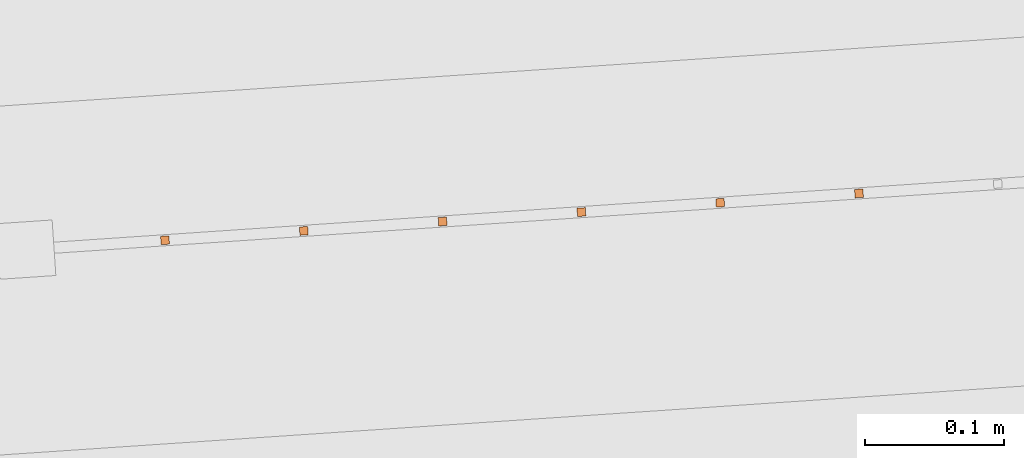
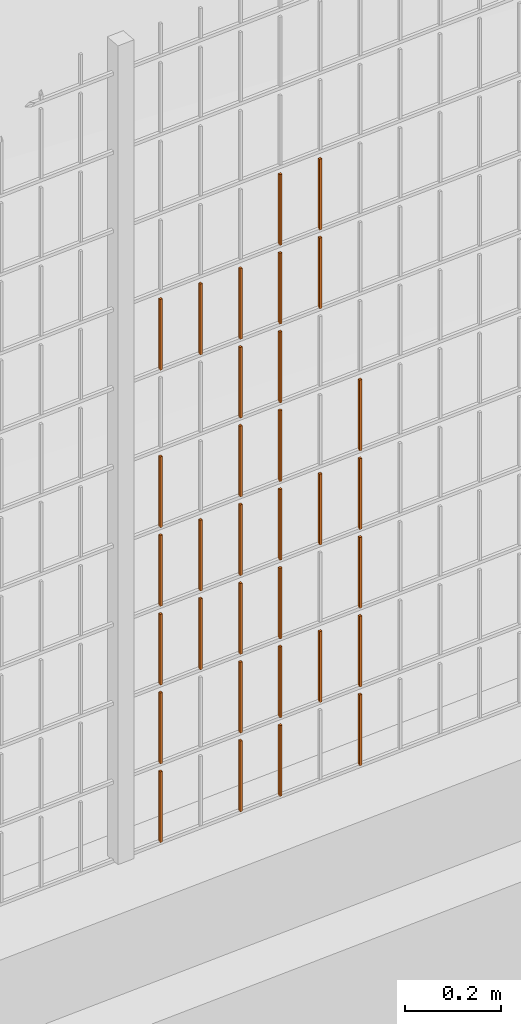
# One storey, part 358 of 1809: 33 proxies, 1 element without a shape of its own.
"""IFC2X3 building model written with IfcOpenShell, lengths in millimetres."""

from ifc_helpers import new_model, entity, si_unit, converted_unit, derived_unit, money_unit, direction, frame, origin_with_axes, place, context, subcontext, project, spatial, faceted_brep, source, transform, mapped, material, type_object, element, aggregate, save


model = new_model("IFC2X3")

# Units and contexts
model_context = context("Model", 3, precision=0.01, world=origin_with_axes(), true_north=direction((0.0, 1.0)))
body_context = subcontext(model_context, "Body", "Model", "MODEL_VIEW")
ifc_project = project(units=[si_unit("LENGTHUNIT", "METRE", prefix="MILLI"), si_unit("AREAUNIT", "SQUARE_METRE"), si_unit("VOLUMEUNIT", "CUBIC_METRE"), converted_unit("PLANEANGLEUNIT", "DEGREE", entity("IfcPlaneAngleMeasure", 0.0174532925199), si_unit("PLANEANGLEUNIT", "RADIAN"), dimensions=[0, 0, 0, 0, 0, 0, 0]), si_unit("SOLIDANGLEUNIT", "STERADIAN"), money_unit("EUR"), converted_unit("TIMEUNIT", "Year", entity("IfcTimeMeasure", 31556926.0), si_unit("TIMEUNIT", "SECOND"), dimensions=[0, 0, 1, 0, 0, 0, 0]), si_unit("MASSUNIT", "GRAM", prefix="KILO"), si_unit("THERMODYNAMICTEMPERATUREUNIT", "DEGREE_CELSIUS"), si_unit("LUMINOUSINTENSITYUNIT", "LUMEN"), si_unit("ENERGYUNIT", "JOULE", prefix="MEGA"), derived_unit("THERMALCONDUCTANCEUNIT", [(si_unit("POWERUNIT", "WATT"), 1), (si_unit("LENGTHUNIT", "METRE"), -1), (si_unit("THERMODYNAMICTEMPERATUREUNIT", "KELVIN"), -1)]), derived_unit("SPECIFICHEATCAPACITYUNIT", [(si_unit("ENERGYUNIT", "JOULE"), 1), (si_unit("MASSUNIT", "GRAM", prefix="KILO"), -1), (si_unit("THERMODYNAMICTEMPERATUREUNIT", "KELVIN"), -1)]), derived_unit("MASSDENSITYUNIT", [(si_unit("MASSUNIT", "GRAM", prefix="KILO"), 1), (si_unit("VOLUMEUNIT", "CUBIC_METRE"), -1)])], contexts=[model_context])

# Site, building, storey
site_placement = place(None, origin_with_axes())
site = spatial("IfcSite", under=ifc_project, at=site_placement, Name="Politse- ja Piirivalveameti ning Päästeameti ühishoone", CompositionType="ELEMENT")
building_placement = place(site_placement, origin_with_axes())
building = spatial("IfcBuilding", under=site, at=building_placement, Name="Politse- ja Piirivalveameti ning Päästeameti ühishoone", CompositionType="ELEMENT")
storey_placement = place(building_placement, origin_with_axes())
storey = spatial("IfcBuildingStorey", under=building, at=storey_placement, Name="Esimene korrus", CompositionType="ELEMENT", Elevation=0.0)

# Proxies
building_element_proxy_type_1 = type_object("IfcBuildingElementProxyType", Name="Railing Type", PredefinedType="NOTDEFINED")
proxy_1_placement = place(storey_placement, frame((89252.001212, -29183.4766571, 203.661247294), z_axis=(0.0, 0.0, 1.0), x_axis=(1.0, 0.0, 0.0)))
proxy_1 = element("IfcBuildingElementProxy", 1, at=proxy_1_placement, inside=storey, type_object=building_element_proxy_type_1, Name="PIIRDEAED")
ifc_material = material(Name="ET-03_Raud")
building_element_proxy_type_2 = type_object("IfcBuildingElementProxyType", Name="IfcBuildingElementProxy", PredefinedType="NOTDEFINED")
shared_shape_1 = source(origin_with_axes(), body_context, "Body", "Brep", [
    faceted_brep([(3.0, 3.0, -0.000752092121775), (-3.0, 3.0, -0.000752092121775), (-3.0, 3.0, 179.99926046), (3.0, 3.0, 179.99926046), (3.0, -3.0, 0.000752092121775), (-3.0, -3.0, 0.000752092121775), (-3.0, -3.0, 180.000764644), (3.0, -3.0, 180.000764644)], [[[0, 1, 2, 3]], [[0, 4, 5, 1]], [[1, 5, 6, 2]], [[3, 2, 6, 7]], [[4, 0, 3, 7]], [[5, 4, 7, 6]]]),
])
proxy_2_placement = place(proxy_1_placement, frame((-24670.4725919, -18964.1720822, 421.035469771), z_axis=(0.0, 0.0, 1.0), x_axis=(1.0, 0.0, 0.0)))
proxy_2 = element("IfcBuildingElementProxy", 2, at=proxy_2_placement, type_object=building_element_proxy_type_2, material=ifc_material, Name="BALUSTER - 001", context=body_context, shape_type="MappedRepresentation", body=[
    mapped(shared_shape_1, transform((0.0, 0.0, 0.0), x_axis=(-0.0673926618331, 0.997726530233, 0.0), y_axis=(-0.997726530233, -0.0673926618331, 0.0), z_axis=(0.0, 0.0, 1.0))),
])
shared_shape_2 = source(origin_with_axes(), body_context, "Body", "Brep", [
    faceted_brep([(3.0, 3.0, -0.000752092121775), (-3.0, 3.0, -0.000752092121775), (-3.0, 3.0, 179.99926046), (3.0, 3.0, 179.99926046), (3.0, -3.0, 0.000752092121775), (-3.0, -3.0, 0.000752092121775), (-3.0, -3.0, 180.000764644), (3.0, -3.0, 180.000764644)], [[[0, 1, 2, 3]], [[0, 4, 5, 1]], [[1, 5, 6, 2]], [[3, 2, 6, 7]], [[4, 0, 3, 7]], [[5, 4, 7, 6]]]),
])
proxy_3_placement = place(proxy_1_placement, frame((-24670.4725919, -18964.1720822, 821.035469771), z_axis=(0.0, 0.0, 1.0), x_axis=(1.0, 0.0, 0.0)))
proxy_3 = element("IfcBuildingElementProxy", 3, at=proxy_3_placement, type_object=building_element_proxy_type_2, material=ifc_material, Name="BALUSTER - 001", context=body_context, shape_type="MappedRepresentation", body=[
    mapped(shared_shape_2, transform((0.0, 0.0, 0.0), x_axis=(-0.0673926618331, 0.997726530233, 0.0), y_axis=(-0.997726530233, -0.0673926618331, 0.0), z_axis=(0.0, 0.0, 1.0))),
])
shared_shape_3 = source(origin_with_axes(), body_context, "Body", "Brep", [
    faceted_brep([(3.0, 3.0, -0.000752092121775), (-3.0, 3.0, -0.000752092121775), (-3.0, 3.0, 179.99926046), (3.0, 3.0, 179.99926046), (3.0, -3.0, 0.000752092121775), (-3.0, -3.0, 0.000752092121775), (-3.0, -3.0, 180.000764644), (3.0, -3.0, 180.000764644)], [[[0, 1, 2, 3]], [[0, 4, 5, 1]], [[1, 5, 6, 2]], [[3, 2, 6, 7]], [[4, 0, 3, 7]], [[5, 4, 7, 6]]]),
])
proxy_4_placement = place(proxy_1_placement, frame((-24670.4725919, -18964.1720822, 21.0354697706), z_axis=(0.0, 0.0, 1.0), x_axis=(1.0, 0.0, 0.0)))
proxy_4 = element("IfcBuildingElementProxy", 4, at=proxy_4_placement, type_object=building_element_proxy_type_2, material=ifc_material, Name="BALUSTER - 001", context=body_context, shape_type="MappedRepresentation", body=[
    mapped(shared_shape_3, transform((0.0, 0.0, 0.0), x_axis=(-0.0673926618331, 0.997726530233, 0.0), y_axis=(-0.997726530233, -0.0673926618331, 0.0), z_axis=(0.0, 0.0, 1.0))),
])
proxy_5_placement = place(proxy_1_placement, frame((-24670.4725919, -18964.1720822, 221.035469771), z_axis=(0.0, 0.0, 1.0), x_axis=(1.0, 0.0, 0.0)))
proxy_5 = element("IfcBuildingElementProxy", 5, at=proxy_5_placement, type_object=building_element_proxy_type_2, material=ifc_material, Name="BALUSTER - 001", context=body_context, shape_type="MappedRepresentation", body=[
    mapped(shared_shape_3, transform((0.0, 0.0, 0.0), x_axis=(-0.0673926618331, 0.997726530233, 0.0), y_axis=(-0.997726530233, -0.0673926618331, 0.0), z_axis=(0.0, 0.0, 1.0))),
])
shared_shape_4 = source(origin_with_axes(), body_context, "Body", "Brep", [
    faceted_brep([(3.0, 3.0, -0.000752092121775), (-3.0, 3.0, -0.000752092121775), (-3.0, 3.0, 179.99926046), (3.0, 3.0, 179.99926046), (3.0, -3.0, 0.000752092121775), (-3.0, -3.0, 0.000752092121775), (-3.0, -3.0, 180.000764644), (3.0, -3.0, 180.000764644)], [[[0, 1, 2, 3]], [[0, 4, 5, 1]], [[1, 5, 6, 2]], [[3, 2, 6, 7]], [[4, 0, 3, 7]], [[5, 4, 7, 6]]]),
])
proxy_6_placement = place(proxy_1_placement, frame((-24670.4725919, -18964.1720822, 621.035469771), z_axis=(0.0, 0.0, 1.0), x_axis=(1.0, 0.0, 0.0)))
proxy_6 = element("IfcBuildingElementProxy", 6, at=proxy_6_placement, type_object=building_element_proxy_type_2, material=ifc_material, Name="BALUSTER - 001", context=body_context, shape_type="MappedRepresentation", body=[
    mapped(shared_shape_4, transform((0.0, 0.0, 0.0), x_axis=(-0.0673926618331, 0.997726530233, 0.0), y_axis=(-0.997726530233, -0.0673926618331, 0.0), z_axis=(0.0, 0.0, 1.0))),
])
shared_shape_5 = source(origin_with_axes(), body_context, "Body", "Brep", [
    faceted_brep([(3.0, 3.0, -0.000752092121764), (-3.0, 3.0, -0.000752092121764), (-3.0, 3.0, 179.99926046), (3.0, 3.0, 179.99926046), (3.0, -3.0, 0.000752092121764), (-3.0, -3.0, 0.000752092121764), (-3.0, -3.0, 180.000764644), (3.0, -3.0, 180.000764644)], [[[0, 1, 2, 3]], [[0, 4, 5, 1]], [[1, 5, 6, 2]], [[3, 2, 6, 7]], [[4, 0, 3, 7]], [[5, 4, 7, 6]]]),
])
proxy_7_placement = place(proxy_1_placement, frame((-24171.6093268, -18930.4757513, 621.160818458), z_axis=(0.0, 0.0, 1.0), x_axis=(1.0, 0.0, 0.0)))
proxy_7 = element("IfcBuildingElementProxy", 7, at=proxy_7_placement, type_object=building_element_proxy_type_2, material=ifc_material, Name="BALUSTER - 001", context=body_context, shape_type="MappedRepresentation", body=[
    mapped(shared_shape_5, transform((0.0, 0.0, 0.0), x_axis=(-0.0673926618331, 0.997726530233, 0.0), y_axis=(-0.997726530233, -0.0673926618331, 0.0), z_axis=(0.0, 0.0, 1.0))),
])
shared_shape_6 = source(origin_with_axes(), body_context, "Body", "Brep", [
    faceted_brep([(3.0, 3.0, -0.000752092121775), (-3.0, 3.0, -0.000752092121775), (-3.0, 3.0, 179.99926046), (3.0, 3.0, 179.99926046), (3.0, -3.0, 0.000752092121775), (-3.0, -3.0, 0.000752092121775), (-3.0, -3.0, 180.000764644), (3.0, -3.0, 180.000764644)], [[[0, 1, 2, 3]], [[0, 4, 5, 1]], [[1, 5, 6, 2]], [[3, 2, 6, 7]], [[4, 0, 3, 7]], [[5, 4, 7, 6]]]),
])
proxy_8_placement = place(proxy_1_placement, frame((-24470.9272859, -18950.6935498, 21.0856092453), z_axis=(0.0, 0.0, 1.0), x_axis=(1.0, 0.0, 0.0)))
proxy_8 = element("IfcBuildingElementProxy", 8, at=proxy_8_placement, type_object=building_element_proxy_type_2, material=ifc_material, Name="BALUSTER - 001", context=body_context, shape_type="MappedRepresentation", body=[
    mapped(shared_shape_6, transform((0.0, 0.0, 0.0), x_axis=(-0.0673926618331, 0.997726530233, 0.0), y_axis=(-0.997726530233, -0.0673926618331, 0.0), z_axis=(0.0, 0.0, 1.0))),
])
shared_shape_7 = source(origin_with_axes(), body_context, "Body", "Brep", [
    faceted_brep([(3.0, 3.0, -0.000752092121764), (-3.0, 3.0, -0.000752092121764), (-3.0, 3.0, 179.99926046), (3.0, 3.0, 179.99926046), (3.0, -3.0, 0.000752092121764), (-3.0, -3.0, 0.000752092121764), (-3.0, -3.0, 180.000764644), (3.0, -3.0, 180.000764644)], [[[0, 1, 2, 3]], [[0, 4, 5, 1]], [[1, 5, 6, 2]], [[3, 2, 6, 7]], [[4, 0, 3, 7]], [[5, 4, 7, 6]]]),
])
proxy_9_placement = place(proxy_1_placement, frame((-24171.6093268, -18930.4757513, 21.1608184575), z_axis=(0.0, 0.0, 1.0), x_axis=(1.0, 0.0, 0.0)))
proxy_9 = element("IfcBuildingElementProxy", 9, at=proxy_9_placement, type_object=building_element_proxy_type_2, material=ifc_material, Name="BALUSTER - 001", context=body_context, shape_type="MappedRepresentation", body=[
    mapped(shared_shape_7, transform((0.0, 0.0, 0.0), x_axis=(-0.0673926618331, 0.997726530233, 0.0), y_axis=(-0.997726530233, -0.0673926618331, 0.0), z_axis=(0.0, 0.0, 1.0))),
])
shared_shape_8 = source(origin_with_axes(), body_context, "Body", "Brep", [
    faceted_brep([(3.0, 3.0, -0.000752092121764), (-3.0, 3.0, -0.000752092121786), (-3.0, 3.0, 179.99926046), (3.0, 3.0, 179.99926046), (3.0, -3.0, 0.000752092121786), (-3.0, -3.0, 0.000752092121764), (-3.0, -3.0, 180.000764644), (3.0, -3.0, 180.000764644)], [[[0, 1, 2, 3]], [[0, 4, 5, 1]], [[1, 5, 6, 2]], [[3, 2, 6, 7]], [[4, 0, 3, 7]], [[5, 4, 7, 6]]]),
])
proxy_10_placement = place(proxy_1_placement, frame((-24371.1546329, -18943.9542836, 21.1106789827), z_axis=(0.0, 0.0, 1.0), x_axis=(1.0, 0.0, 0.0)))
proxy_10 = element("IfcBuildingElementProxy", 10, at=proxy_10_placement, type_object=building_element_proxy_type_2, material=ifc_material, Name="BALUSTER - 001", context=body_context, shape_type="MappedRepresentation", body=[
    mapped(shared_shape_8, transform((0.0, 0.0, 0.0), x_axis=(-0.0673926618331, 0.997726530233, 0.0), y_axis=(-0.997726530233, -0.0673926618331, 0.0), z_axis=(0.0, 0.0, 1.0))),
])
shared_shape_9 = source(origin_with_axes(), body_context, "Body", "Brep", [
    faceted_brep([(3.0, 3.0, -0.000752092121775), (-3.0, 3.0, -0.000752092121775), (-3.0, 3.0, 179.99926046), (3.0, 3.0, 179.99926046), (3.0, -3.0, 0.000752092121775), (-3.0, -3.0, 0.000752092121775), (-3.0, -3.0, 180.000764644), (3.0, -3.0, 180.000764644)], [[[0, 1, 2, 3]], [[0, 4, 5, 1]], [[1, 5, 6, 2]], [[3, 2, 6, 7]], [[4, 0, 3, 7]], [[5, 4, 7, 6]]]),
])
proxy_11_placement = place(proxy_1_placement, frame((-24470.9272859, -18950.6935498, 421.085609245), z_axis=(0.0, 0.0, 1.0), x_axis=(1.0, 0.0, 0.0)))
proxy_11 = element("IfcBuildingElementProxy", 11, at=proxy_11_placement, type_object=building_element_proxy_type_2, material=ifc_material, Name="BALUSTER - 001", context=body_context, shape_type="MappedRepresentation", body=[
    mapped(shared_shape_9, transform((0.0, 0.0, 0.0), x_axis=(-0.0673926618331, 0.997726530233, 0.0), y_axis=(-0.997726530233, -0.0673926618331, 0.0), z_axis=(0.0, 0.0, 1.0))),
])
proxy_12_placement = place(proxy_1_placement, frame((-24470.9272859, -18950.6935498, 621.085609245), z_axis=(0.0, 0.0, 1.0), x_axis=(1.0, 0.0, 0.0)))
proxy_12 = element("IfcBuildingElementProxy", 12, at=proxy_12_placement, type_object=building_element_proxy_type_2, material=ifc_material, Name="BALUSTER - 001", context=body_context, shape_type="MappedRepresentation", body=[
    mapped(shared_shape_9, transform((0.0, 0.0, 0.0), x_axis=(-0.0673926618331, 0.997726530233, 0.0), y_axis=(-0.997726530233, -0.0673926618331, 0.0), z_axis=(0.0, 0.0, 1.0))),
])
shared_shape_10 = source(origin_with_axes(), body_context, "Body", "Brep", [
    faceted_brep([(3.0, 3.0, -0.000752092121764), (-3.0, 3.0, -0.000752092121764), (-3.0, 3.0, 179.99926046), (3.0, 3.0, 179.99926046), (3.0, -3.0, 0.000752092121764), (-3.0, -3.0, 0.000752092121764), (-3.0, -3.0, 180.000764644), (3.0, -3.0, 180.000764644)], [[[0, 1, 2, 3]], [[0, 4, 5, 1]], [[1, 5, 6, 2]], [[3, 2, 6, 7]], [[4, 0, 3, 7]], [[5, 4, 7, 6]]]),
])
proxy_13_placement = place(proxy_1_placement, frame((-24171.6093268, -18930.4757513, 221.160818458), z_axis=(0.0, 0.0, 1.0), x_axis=(1.0, 0.0, 0.0)))
proxy_13 = element("IfcBuildingElementProxy", 13, at=proxy_13_placement, type_object=building_element_proxy_type_2, material=ifc_material, Name="BALUSTER - 001", context=body_context, shape_type="MappedRepresentation", body=[
    mapped(shared_shape_10, transform((0.0, 0.0, 0.0), x_axis=(-0.0673926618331, 0.997726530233, 0.0), y_axis=(-0.997726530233, -0.0673926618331, 0.0), z_axis=(0.0, 0.0, 1.0))),
])
proxy_14_placement = place(proxy_1_placement, frame((-24171.6093268, -18930.4757513, 421.160818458), z_axis=(0.0, 0.0, 1.0), x_axis=(1.0, 0.0, 0.0)))
proxy_14 = element("IfcBuildingElementProxy", 14, at=proxy_14_placement, type_object=building_element_proxy_type_2, material=ifc_material, Name="BALUSTER - 001", context=body_context, shape_type="MappedRepresentation", body=[
    mapped(shared_shape_10, transform((0.0, 0.0, 0.0), x_axis=(-0.0673926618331, 0.997726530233, 0.0), y_axis=(-0.997726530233, -0.0673926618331, 0.0), z_axis=(0.0, 0.0, 1.0))),
])
shared_shape_11 = source(origin_with_axes(), body_context, "Body", "Brep", [
    faceted_brep([(3.0, 3.0, -0.000752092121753), (-3.0, 3.0, -0.000752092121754), (-3.0, 3.0, 179.99926046), (3.0, 3.0, 179.99926046), (3.0, -3.0, 0.000752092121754), (-3.0, -3.0, 0.000752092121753), (-3.0, -3.0, 180.000764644), (3.0, -3.0, 180.000764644)], [[[0, 1, 2, 3]], [[0, 4, 5, 1]], [[1, 5, 6, 2]], [[3, 2, 6, 7]], [[4, 0, 3, 7]], [[5, 4, 7, 6]]]),
])
proxy_15_placement = place(proxy_1_placement, frame((-24271.3819798, -18937.2150175, 221.13574872), z_axis=(0.0, 0.0, 1.0), x_axis=(1.0, 0.0, 0.0)))
proxy_15 = element("IfcBuildingElementProxy", 15, at=proxy_15_placement, type_object=building_element_proxy_type_2, material=ifc_material, Name="BALUSTER - 001", context=body_context, shape_type="MappedRepresentation", body=[
    mapped(shared_shape_11, transform((0.0, 0.0, 0.0), x_axis=(-0.0673926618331, 0.997726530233, 0.0), y_axis=(-0.997726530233, -0.0673926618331, 0.0), z_axis=(0.0, 0.0, 1.0))),
])
proxy_16_placement = place(proxy_1_placement, frame((-24271.3819798, -18937.2150175, 621.13574872), z_axis=(0.0, 0.0, 1.0), x_axis=(1.0, 0.0, 0.0)))
proxy_16 = element("IfcBuildingElementProxy", 16, at=proxy_16_placement, type_object=building_element_proxy_type_2, material=ifc_material, Name="BALUSTER - 001", context=body_context, shape_type="MappedRepresentation", body=[
    mapped(shared_shape_11, transform((0.0, 0.0, 0.0), x_axis=(-0.0673926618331, 0.997726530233, 0.0), y_axis=(-0.997726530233, -0.0673926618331, 0.0), z_axis=(0.0, 0.0, 1.0))),
])
shared_shape_12 = source(origin_with_axes(), body_context, "Body", "Brep", [
    faceted_brep([(3.0, 3.0, -0.000752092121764), (-3.0, 3.0, -0.000752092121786), (-3.0, 3.0, 179.99926046), (3.0, 3.0, 179.99926046), (3.0, -3.0, 0.000752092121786), (-3.0, -3.0, 0.000752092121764), (-3.0, -3.0, 180.000764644), (3.0, -3.0, 180.000764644)], [[[0, 1, 2, 3]], [[0, 4, 5, 1]], [[1, 5, 6, 2]], [[3, 2, 6, 7]], [[4, 0, 3, 7]], [[5, 4, 7, 6]]]),
])
proxy_17_placement = place(proxy_1_placement, frame((-24371.1546329, -18943.9542836, 221.110678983), z_axis=(0.0, 0.0, 1.0), x_axis=(1.0, 0.0, 0.0)))
proxy_17 = element("IfcBuildingElementProxy", 17, at=proxy_17_placement, type_object=building_element_proxy_type_2, material=ifc_material, Name="BALUSTER - 001", context=body_context, shape_type="MappedRepresentation", body=[
    mapped(shared_shape_12, transform((0.0, 0.0, 0.0), x_axis=(-0.0673926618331, 0.997726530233, 0.0), y_axis=(-0.997726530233, -0.0673926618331, 0.0), z_axis=(0.0, 0.0, 1.0))),
])
proxy_18_placement = place(proxy_1_placement, frame((-24371.1546329, -18943.9542836, 421.110678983), z_axis=(0.0, 0.0, 1.0), x_axis=(1.0, 0.0, 0.0)))
proxy_18 = element("IfcBuildingElementProxy", 18, at=proxy_18_placement, type_object=building_element_proxy_type_2, material=ifc_material, Name="BALUSTER - 001", context=body_context, shape_type="MappedRepresentation", body=[
    mapped(shared_shape_12, transform((0.0, 0.0, 0.0), x_axis=(-0.0673926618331, 0.997726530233, 0.0), y_axis=(-0.997726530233, -0.0673926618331, 0.0), z_axis=(0.0, 0.0, 1.0))),
])
shared_shape_13 = source(origin_with_axes(), body_context, "Body", "Brep", [
    faceted_brep([(3.0, 3.0, -0.000752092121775), (-3.0, 3.0, -0.000752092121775), (-3.0, 3.0, 179.99926046), (3.0, 3.0, 179.99926046), (3.0, -3.0, 0.000752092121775), (-3.0, -3.0, 0.000752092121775), (-3.0, -3.0, 180.000764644), (3.0, -3.0, 180.000764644)], [[[0, 1, 2, 3]], [[0, 4, 5, 1]], [[1, 5, 6, 2]], [[3, 2, 6, 7]], [[4, 0, 3, 7]], [[5, 4, 7, 6]]]),
])
proxy_19_placement = place(proxy_1_placement, frame((-24470.9272859, -18950.6935498, 221.085609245), z_axis=(0.0, 0.0, 1.0), x_axis=(1.0, 0.0, 0.0)))
proxy_19 = element("IfcBuildingElementProxy", 19, at=proxy_19_placement, type_object=building_element_proxy_type_2, material=ifc_material, Name="BALUSTER - 001", context=body_context, shape_type="MappedRepresentation", body=[
    mapped(shared_shape_13, transform((0.0, 0.0, 0.0), x_axis=(-0.0673926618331, 0.997726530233, 0.0), y_axis=(-0.997726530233, -0.0673926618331, 0.0), z_axis=(0.0, 0.0, 1.0))),
])
shared_shape_14 = source(origin_with_axes(), body_context, "Body", "Brep", [
    faceted_brep([(3.0, 3.0, -0.000752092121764), (-3.0, 3.0, -0.000752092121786), (-3.0, 3.0, 179.99926046), (3.0, 3.0, 179.99926046), (3.0, -3.0, 0.000752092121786), (-3.0, -3.0, 0.000752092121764), (-3.0, -3.0, 180.000764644), (3.0, -3.0, 180.000764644)], [[[0, 1, 2, 3]], [[0, 4, 5, 1]], [[1, 5, 6, 2]], [[3, 2, 6, 7]], [[4, 0, 3, 7]], [[5, 4, 7, 6]]]),
])
proxy_20_placement = place(proxy_1_placement, frame((-24570.6999389, -18957.432816, 421.060539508), z_axis=(0.0, 0.0, 1.0), x_axis=(1.0, 0.0, 0.0)))
proxy_20 = element("IfcBuildingElementProxy", 20, at=proxy_20_placement, type_object=building_element_proxy_type_2, material=ifc_material, Name="BALUSTER - 001", context=body_context, shape_type="MappedRepresentation", body=[
    mapped(shared_shape_14, transform((0.0, 0.0, 0.0), x_axis=(-0.0673926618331, 0.997726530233, 0.0), y_axis=(-0.997726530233, -0.0673926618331, 0.0), z_axis=(0.0, 0.0, 1.0))),
])
shared_shape_15 = source(origin_with_axes(), body_context, "Body", "Brep", [
    faceted_brep([(3.0, 3.0, -0.000752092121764), (-3.0, 3.0, -0.000752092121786), (-3.0, 3.0, 179.99926046), (3.0, 3.0, 179.99926046), (3.0, -3.0, 0.000752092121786), (-3.0, -3.0, 0.000752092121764), (-3.0, -3.0, 180.000764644), (3.0, -3.0, 180.000764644)], [[[0, 1, 2, 3]], [[0, 4, 5, 1]], [[1, 5, 6, 2]], [[3, 2, 6, 7]], [[4, 0, 3, 7]], [[5, 4, 7, 6]]]),
])
proxy_21_placement = place(proxy_1_placement, frame((-24470.9272859, -18950.6935498, 1221.08560925), z_axis=(0.0, 0.0, 1.0), x_axis=(1.0, 0.0, 0.0)))
proxy_21 = element("IfcBuildingElementProxy", 21, at=proxy_21_placement, type_object=building_element_proxy_type_2, material=ifc_material, Name="BALUSTER - 001", context=body_context, shape_type="MappedRepresentation", body=[
    mapped(shared_shape_15, transform((0.0, 0.0, 0.0), x_axis=(-0.0673926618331, 0.997726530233, 0.0), y_axis=(-0.997726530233, -0.0673926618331, 0.0), z_axis=(0.0, 0.0, 1.0))),
])
proxy_22_placement = place(proxy_1_placement, frame((-24570.6999389, -18957.432816, 1221.06053951), z_axis=(0.0, 0.0, 1.0), x_axis=(1.0, 0.0, 0.0)))
proxy_22 = element("IfcBuildingElementProxy", 22, at=proxy_22_placement, type_object=building_element_proxy_type_2, material=ifc_material, Name="BALUSTER - 001", context=body_context, shape_type="MappedRepresentation", body=[
    mapped(shared_shape_15, transform((0.0, 0.0, 0.0), x_axis=(-0.0673926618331, 0.997726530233, 0.0), y_axis=(-0.997726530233, -0.0673926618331, 0.0), z_axis=(0.0, 0.0, 1.0))),
])
shared_shape_16 = source(origin_with_axes(), body_context, "Body", "Brep", [
    faceted_brep([(3.0, 3.0, -0.000752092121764), (-3.0, 3.0, -0.000752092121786), (-3.0, 3.0, 179.99926046), (3.0, 3.0, 179.99926046), (3.0, -3.0, 0.000752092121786), (-3.0, -3.0, 0.000752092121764), (-3.0, -3.0, 180.000764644), (3.0, -3.0, 180.000764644)], [[[0, 1, 2, 3]], [[0, 4, 5, 1]], [[1, 5, 6, 2]], [[3, 2, 6, 7]], [[4, 0, 3, 7]], [[5, 4, 7, 6]]]),
])
proxy_23_placement = place(proxy_1_placement, frame((-24371.1546329, -18943.9542836, 621.110678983), z_axis=(0.0, 0.0, 1.0), x_axis=(1.0, 0.0, 0.0)))
proxy_23 = element("IfcBuildingElementProxy", 23, at=proxy_23_placement, type_object=building_element_proxy_type_2, material=ifc_material, Name="BALUSTER - 001", context=body_context, shape_type="MappedRepresentation", body=[
    mapped(shared_shape_16, transform((0.0, 0.0, 0.0), x_axis=(-0.0673926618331, 0.997726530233, 0.0), y_axis=(-0.997726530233, -0.0673926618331, 0.0), z_axis=(0.0, 0.0, 1.0))),
])
shared_shape_17 = source(origin_with_axes(), body_context, "Body", "Brep", [
    faceted_brep([(3.0, 3.0, -0.000752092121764), (-3.0, 3.0, -0.000752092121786), (-3.0, 3.0, 179.99926046), (3.0, 3.0, 179.99926046), (3.0, -3.0, 0.000752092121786), (-3.0, -3.0, 0.000752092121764), (-3.0, -3.0, 180.000764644), (3.0, -3.0, 180.000764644)], [[[0, 1, 2, 3]], [[0, 4, 5, 1]], [[1, 5, 6, 2]], [[3, 2, 6, 7]], [[4, 0, 3, 7]], [[5, 4, 7, 6]]]),
])
proxy_24_placement = place(proxy_1_placement, frame((-24570.6999389, -18957.432816, 621.060539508), z_axis=(0.0, 0.0, 1.0), x_axis=(1.0, 0.0, 0.0)))
proxy_24 = element("IfcBuildingElementProxy", 24, at=proxy_24_placement, type_object=building_element_proxy_type_2, material=ifc_material, Name="BALUSTER - 001", context=body_context, shape_type="MappedRepresentation", body=[
    mapped(shared_shape_17, transform((0.0, 0.0, 0.0), x_axis=(-0.0673926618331, 0.997726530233, 0.0), y_axis=(-0.997726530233, -0.0673926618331, 0.0), z_axis=(0.0, 0.0, 1.0))),
])
shared_shape_18 = source(origin_with_axes(), body_context, "Body", "Brep", [
    faceted_brep([(3.0, 3.0, -0.000752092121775), (-3.0, 3.0, -0.000752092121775), (-3.0, 3.0, 179.99926046), (3.0, 3.0, 179.99926046), (3.0, -3.0, 0.000752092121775), (-3.0, -3.0, 0.000752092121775), (-3.0, -3.0, 180.000764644), (3.0, -3.0, 180.000764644)], [[[0, 1, 2, 3]], [[0, 4, 5, 1]], [[1, 5, 6, 2]], [[3, 2, 6, 7]], [[4, 0, 3, 7]], [[5, 4, 7, 6]]]),
])
proxy_25_placement = place(proxy_1_placement, frame((-24470.9272859, -18950.6935498, 821.085609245), z_axis=(0.0, 0.0, 1.0), x_axis=(1.0, 0.0, 0.0)))
proxy_25 = element("IfcBuildingElementProxy", 25, at=proxy_25_placement, type_object=building_element_proxy_type_2, material=ifc_material, Name="BALUSTER - 001", context=body_context, shape_type="MappedRepresentation", body=[
    mapped(shared_shape_18, transform((0.0, 0.0, 0.0), x_axis=(-0.0673926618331, 0.997726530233, 0.0), y_axis=(-0.997726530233, -0.0673926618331, 0.0), z_axis=(0.0, 0.0, 1.0))),
])
shared_shape_19 = source(origin_with_axes(), body_context, "Body", "Brep", [
    faceted_brep([(3.0, 3.0, -0.000752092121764), (-3.0, 3.0, -0.000752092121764), (-3.0, 3.0, 179.99926046), (3.0, 3.0, 179.99926046), (3.0, -3.0, 0.000752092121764), (-3.0, -3.0, 0.000752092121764), (-3.0, -3.0, 180.000764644), (3.0, -3.0, 180.000764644)], [[[0, 1, 2, 3]], [[0, 4, 5, 1]], [[1, 5, 6, 2]], [[3, 2, 6, 7]], [[4, 0, 3, 7]], [[5, 4, 7, 6]]]),
])
proxy_26_placement = place(proxy_1_placement, frame((-24171.6093268, -18930.4757513, 821.160818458), z_axis=(0.0, 0.0, 1.0), x_axis=(1.0, 0.0, 0.0)))
proxy_26 = element("IfcBuildingElementProxy", 26, at=proxy_26_placement, type_object=building_element_proxy_type_2, material=ifc_material, Name="BALUSTER - 001", context=body_context, shape_type="MappedRepresentation", body=[
    mapped(shared_shape_19, transform((0.0, 0.0, 0.0), x_axis=(-0.0673926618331, 0.997726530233, 0.0), y_axis=(-0.997726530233, -0.0673926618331, 0.0), z_axis=(0.0, 0.0, 1.0))),
])
shared_shape_20 = source(origin_with_axes(), body_context, "Body", "Brep", [
    faceted_brep([(3.0, 3.0, -0.000752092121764), (-3.0, 3.0, -0.000752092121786), (-3.0, 3.0, 179.99926046), (3.0, 3.0, 179.99926046), (3.0, -3.0, 0.000752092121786), (-3.0, -3.0, 0.000752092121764), (-3.0, -3.0, 180.000764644), (3.0, -3.0, 180.000764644)], [[[0, 1, 2, 3]], [[0, 4, 5, 1]], [[1, 5, 6, 2]], [[3, 2, 6, 7]], [[4, 0, 3, 7]], [[5, 4, 7, 6]]]),
])
proxy_27_placement = place(proxy_1_placement, frame((-24371.1546329, -18943.9542836, 821.110678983), z_axis=(0.0, 0.0, 1.0), x_axis=(1.0, 0.0, 0.0)))
proxy_27 = element("IfcBuildingElementProxy", 27, at=proxy_27_placement, type_object=building_element_proxy_type_2, material=ifc_material, Name="BALUSTER - 001", context=body_context, shape_type="MappedRepresentation", body=[
    mapped(shared_shape_20, transform((0.0, 0.0, 0.0), x_axis=(-0.0673926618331, 0.997726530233, 0.0), y_axis=(-0.997726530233, -0.0673926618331, 0.0), z_axis=(0.0, 0.0, 1.0))),
])
shared_shape_21 = source(origin_with_axes(), body_context, "Body", "Brep", [
    faceted_brep([(3.0, 3.0, -0.000752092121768), (-3.0, 3.0, -0.000752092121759), (-3.00000000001, 2.99999999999, 179.99926046), (2.99999999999, 2.99999999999, 179.99926046), (3.0, -3.0, 0.000752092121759), (-3.0, -3.0, 0.000752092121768), (-3.00000000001, -3.00000000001, 180.000764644), (2.99999999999, -3.00000000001, 180.000764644)], [[[0, 1, 2, 3]], [[0, 4, 5, 1]], [[1, 5, 6, 2]], [[3, 2, 6, 7]], [[4, 0, 3, 7]], [[5, 4, 7, 6]]]),
])
proxy_28_placement = place(proxy_1_placement, frame((-24371.1546329, -18943.9542836, 1021.11067898), z_axis=(0.0, 0.0, 1.0), x_axis=(1.0, 0.0, 0.0)))
proxy_28 = element("IfcBuildingElementProxy", 28, at=proxy_28_placement, type_object=building_element_proxy_type_2, material=ifc_material, Name="BALUSTER - 001", context=body_context, shape_type="MappedRepresentation", body=[
    mapped(shared_shape_21, transform((0.0, 0.0, 0.0), x_axis=(-0.0673926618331, 0.997726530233, 0.0), y_axis=(-0.997726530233, -0.0673926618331, 0.0), z_axis=(0.0, 0.0, 1.0))),
])
shared_shape_22 = source(origin_with_axes(), body_context, "Body", "Brep", [
    faceted_brep([(3.0, 3.0, -0.000752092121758), (-3.0, 3.0, -0.00075209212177), (-3.00000000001, 3.0, 179.99926046), (2.99999999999, 3.0, 179.99926046), (3.0, -3.0, 0.00075209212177), (-3.0, -3.0, 0.000752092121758), (-3.00000000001, -3.0, 180.000764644), (2.99999999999, -3.0, 180.000764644)], [[[0, 1, 2, 3]], [[0, 4, 5, 1]], [[1, 5, 6, 2]], [[3, 2, 6, 7]], [[4, 0, 3, 7]], [[5, 4, 7, 6]]]),
])
proxy_29_placement = place(proxy_1_placement, frame((-24470.9272859, -18950.6935498, 1021.08560925), z_axis=(0.0, 0.0, 1.0), x_axis=(1.0, 0.0, 0.0)))
proxy_29 = element("IfcBuildingElementProxy", 29, at=proxy_29_placement, type_object=building_element_proxy_type_2, material=ifc_material, Name="BALUSTER - 001", context=body_context, shape_type="MappedRepresentation", body=[
    mapped(shared_shape_22, transform((0.0, 0.0, 0.0), x_axis=(-0.0673926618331, 0.997726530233, 0.0), y_axis=(-0.997726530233, -0.0673926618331, 0.0), z_axis=(0.0, 0.0, 1.0))),
])
shared_shape_23 = source(origin_with_axes(), body_context, "Body", "Brep", [
    faceted_brep([(3.0, 3.0, -0.000752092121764), (-3.0, 3.0, -0.000752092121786), (-3.0, 3.0, 179.99926046), (3.0, 3.0, 179.99926046), (3.0, -3.0, 0.000752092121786), (-3.0, -3.0, 0.000752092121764), (-3.0, -3.0, 180.000764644), (3.0, -3.0, 180.000764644)], [[[0, 1, 2, 3]], [[0, 4, 5, 1]], [[1, 5, 6, 2]], [[3, 2, 6, 7]], [[4, 0, 3, 7]], [[5, 4, 7, 6]]]),
])
proxy_30_placement = place(proxy_1_placement, frame((-24371.1546329, -18943.9542836, 1221.11067898), z_axis=(0.0, 0.0, 1.0), x_axis=(1.0, 0.0, 0.0)))
proxy_30 = element("IfcBuildingElementProxy", 30, at=proxy_30_placement, type_object=building_element_proxy_type_2, material=ifc_material, Name="BALUSTER - 001", context=body_context, shape_type="MappedRepresentation", body=[
    mapped(shared_shape_23, transform((0.0, 0.0, 0.0), x_axis=(-0.0673926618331, 0.997726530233, 0.0), y_axis=(-0.997726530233, -0.0673926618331, 0.0), z_axis=(0.0, 0.0, 1.0))),
])
shared_shape_24 = source(origin_with_axes(), body_context, "Body", "Brep", [
    faceted_brep([(3.0, 3.0, -0.000752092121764), (-3.0, 3.0, -0.000752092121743), (-3.0, 3.0, 179.99926046), (3.0, 3.0, 179.99926046), (3.0, -3.0, 0.000752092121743), (-3.0, -3.0, 0.000752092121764), (-3.0, -3.0, 180.000764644), (3.0, -3.0, 180.000764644)], [[[0, 1, 2, 3]], [[0, 4, 5, 1]], [[1, 5, 6, 2]], [[3, 2, 6, 7]], [[4, 0, 3, 7]], [[5, 4, 7, 6]]]),
])
proxy_31_placement = place(proxy_1_placement, frame((-24271.3819798, -18937.2150175, 1221.13574872), z_axis=(0.0, 0.0, 1.0), x_axis=(1.0, 0.0, 0.0)))
proxy_31 = element("IfcBuildingElementProxy", 31, at=proxy_31_placement, type_object=building_element_proxy_type_2, material=ifc_material, Name="BALUSTER - 001", context=body_context, shape_type="MappedRepresentation", body=[
    mapped(shared_shape_24, transform((0.0, 0.0, 0.0), x_axis=(-0.0673926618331, 0.997726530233, 0.0), y_axis=(-0.997726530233, -0.0673926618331, 0.0), z_axis=(0.0, 0.0, 1.0))),
])
shared_shape_25 = source(origin_with_axes(), body_context, "Body", "Brep", [
    faceted_brep([(3.0, 3.0, -0.000752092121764), (-3.0, 3.0, -0.000752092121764), (-3.0, 3.0, 179.99926046), (3.0, 3.0, 179.99926046), (3.0, -3.0, 0.000752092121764), (-3.0, -3.0, 0.000752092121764), (-3.0, -3.0, 180.000764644), (3.0, -3.0, 180.000764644)], [[[0, 1, 2, 3]], [[0, 4, 5, 1]], [[1, 5, 6, 2]], [[3, 2, 6, 7]], [[4, 0, 3, 7]], [[5, 4, 7, 6]]]),
])
proxy_32_placement = place(proxy_1_placement, frame((-24670.4725919, -18964.1720822, 1221.03546977), z_axis=(0.0, 0.0, 1.0), x_axis=(1.0, 0.0, 0.0)))
proxy_32 = element("IfcBuildingElementProxy", 32, at=proxy_32_placement, type_object=building_element_proxy_type_2, material=ifc_material, Name="BALUSTER - 001", context=body_context, shape_type="MappedRepresentation", body=[
    mapped(shared_shape_25, transform((0.0, 0.0, 0.0), x_axis=(-0.0673926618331, 0.997726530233, 0.0), y_axis=(-0.997726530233, -0.0673926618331, 0.0), z_axis=(0.0, 0.0, 1.0))),
])
shared_shape_26 = source(origin_with_axes(), body_context, "Body", "Brep", [
    faceted_brep([(3.0, 3.0, -0.000752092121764), (-3.0, 3.0, -0.000752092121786), (-3.0, 3.0, 179.99926046), (3.0, 3.0, 179.99926046), (3.0, -3.0, 0.000752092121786), (-3.0, -3.0, 0.000752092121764), (-3.0, -3.0, 180.000764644), (3.0, -3.0, 180.000764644)], [[[0, 1, 2, 3]], [[0, 4, 5, 1]], [[1, 5, 6, 2]], [[3, 2, 6, 7]], [[4, 0, 3, 7]], [[5, 4, 7, 6]]]),
])
proxy_33_placement = place(proxy_1_placement, frame((-24371.1546329, -18943.9542836, 1421.11067898), z_axis=(0.0, 0.0, 1.0), x_axis=(1.0, 0.0, 0.0)))
proxy_33 = element("IfcBuildingElementProxy", 33, at=proxy_33_placement, type_object=building_element_proxy_type_2, material=ifc_material, Name="BALUSTER - 001", context=body_context, shape_type="MappedRepresentation", body=[
    mapped(shared_shape_26, transform((0.0, 0.0, 0.0), x_axis=(-0.0673926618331, 0.997726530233, 0.0), y_axis=(-0.997726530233, -0.0673926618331, 0.0), z_axis=(0.0, 0.0, 1.0))),
])
shared_shape_27 = source(origin_with_axes(), body_context, "Body", "Brep", [
    faceted_brep([(3.0, 3.0, -0.000752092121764), (-3.0, 3.0, -0.000752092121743), (-3.0, 3.0, 179.99926046), (3.0, 3.0, 179.99926046), (3.0, -3.0, 0.000752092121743), (-3.0, -3.0, 0.000752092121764), (-3.0, -3.0, 180.000764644), (3.0, -3.0, 180.000764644)], [[[0, 1, 2, 3]], [[0, 4, 5, 1]], [[1, 5, 6, 2]], [[3, 2, 6, 7]], [[4, 0, 3, 7]], [[5, 4, 7, 6]]]),
])
proxy_34_placement = place(proxy_1_placement, frame((-24271.3819798, -18937.2150175, 1421.13574872), z_axis=(0.0, 0.0, 1.0), x_axis=(1.0, 0.0, 0.0)))
proxy_34 = element("IfcBuildingElementProxy", 34, at=proxy_34_placement, type_object=building_element_proxy_type_2, material=ifc_material, Name="BALUSTER - 001", context=body_context, shape_type="MappedRepresentation", body=[
    mapped(shared_shape_27, transform((0.0, 0.0, 0.0), x_axis=(-0.0673926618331, 0.997726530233, 0.0), y_axis=(-0.997726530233, -0.0673926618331, 0.0), z_axis=(0.0, 0.0, 1.0))),
])
aggregate(proxy_1, [proxy_9, proxy_10, proxy_8, proxy_4, proxy_13, proxy_15, proxy_17, proxy_19, proxy_5, proxy_14, proxy_18, proxy_11, proxy_20, proxy_2, proxy_7, proxy_16, proxy_23, proxy_12, proxy_24, proxy_6, proxy_26, proxy_27, proxy_25, proxy_3, proxy_28, proxy_29, proxy_31, proxy_30, proxy_21, proxy_22, proxy_32, proxy_34, proxy_33])

save(model, "model.ifc")
